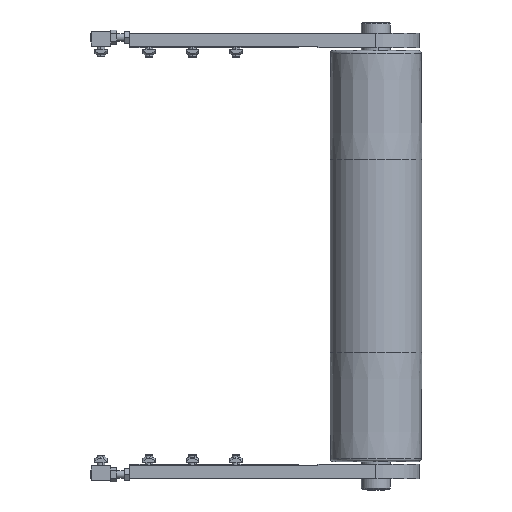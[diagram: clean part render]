
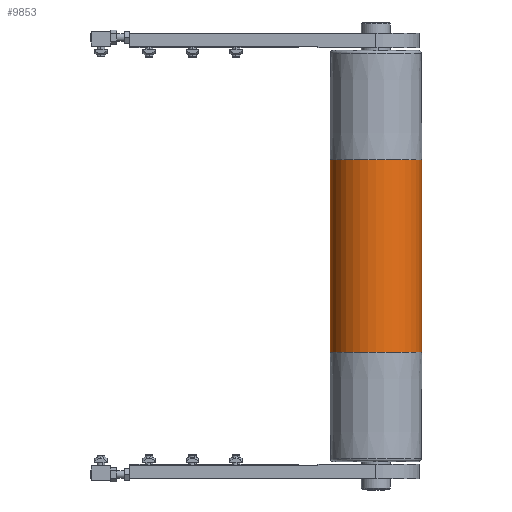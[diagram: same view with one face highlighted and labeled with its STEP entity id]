
A CAD part, front view. The second image highlights one B-rep face of the part: STEP entity #9853.
In plain terms, the highlighted cylindrical face has radius 47.5 mm (diameter 95 mm), a partial arc.
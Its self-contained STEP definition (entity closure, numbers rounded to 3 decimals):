
#971 = LINE ( 'NONE', #972, #13380 ) ;
#972 = CARTESIAN_POINT ( 'NONE',  ( 210., 0., -47.5 ) ) ;
#976 = LINE ( 'NONE', #981, #13385 ) ;
#980 = DIRECTION ( 'NONE',  ( -1., 0., 0. ) ) ;
#981 = CARTESIAN_POINT ( 'NONE',  ( 210., 0., 47.5 ) ) ;
#983 = DIRECTION ( 'NONE',  ( -1., 0., 0. ) ) ;
#1308 = VERTEX_POINT ( 'NONE', #2926 ) ;
#1309 = VERTEX_POINT ( 'NONE', #2927 ) ;
#1313 = VERTEX_POINT ( 'NONE', #2931 ) ;
#1314 = VERTEX_POINT ( 'NONE', #2932 ) ;
#1514 = CIRCLE ( 'NONE', #1517, 47.5 ) ;
#1517 = AXIS2_PLACEMENT_3D ( 'NONE', #3594, #3595, #3596 ) ;
#1683 = CIRCLE ( 'NONE', #1687, 47.5 ) ;
#1687 = AXIS2_PLACEMENT_3D ( 'NONE', #3776, #3777, #3778 ) ;
#2926 = CARTESIAN_POINT ( 'NONE',  ( -100., 0., 47.5 ) ) ;
#2927 = CARTESIAN_POINT ( 'NONE',  ( -100., 0., -47.5 ) ) ;
#2931 = CARTESIAN_POINT ( 'NONE',  ( 100., 0., 47.5 ) ) ;
#2932 = CARTESIAN_POINT ( 'NONE',  ( 100., 0., -47.5 ) ) ;
#3594 = CARTESIAN_POINT ( 'NONE',  ( 100., 0., 0. ) ) ;
#3595 = DIRECTION ( 'NONE',  ( 1., 0., 0. ) ) ;
#3596 = DIRECTION ( 'NONE',  ( 0., 0., -1. ) ) ;
#3776 = CARTESIAN_POINT ( 'NONE',  ( -100., 0., 0. ) ) ;
#3777 = DIRECTION ( 'NONE',  ( 1., 0., 0. ) ) ;
#3778 = DIRECTION ( 'NONE',  ( 0., 0., -1. ) ) ;
#9323 = EDGE_CURVE ( 'NONE', #1314, #1309, #971, .T. ) ;
#9324 = EDGE_CURVE ( 'NONE', #1313, #1308, #976, .T. ) ;
#9717 = EDGE_CURVE ( 'NONE', #1313, #1314, #1514, .T. ) ;
#9778 = EDGE_CURVE ( 'NONE', #1308, #1309, #1683, .T. ) ;
#9853 = ADVANCED_FACE ( 'NONE', ( #10663 ), #10665, .T. ) ;
#10655 = DIRECTION ( 'NONE',  ( -1., 0., 0. ) ) ;
#10663 = FACE_OUTER_BOUND ( 'NONE', #11893, .T. ) ;
#10664 = CARTESIAN_POINT ( 'NONE',  ( 210., 0., 0. ) ) ;
#10665 = CYLINDRICAL_SURFACE ( 'NONE', #12989, 47.5 ) ;
#10666 = DIRECTION ( 'NONE',  ( 0., 0., 1. ) ) ;
#11127 = ORIENTED_EDGE ( 'NONE', *, *, #9323, .F. ) ;
#11128 = ORIENTED_EDGE ( 'NONE', *, *, #9717, .F. ) ;
#11129 = ORIENTED_EDGE ( 'NONE', *, *, #9324, .T. ) ;
#11135 = ORIENTED_EDGE ( 'NONE', *, *, #9778, .T. ) ;
#11893 = EDGE_LOOP ( 'NONE', ( #11127, #11128, #11129, #11135 ) ) ;
#12989 = AXIS2_PLACEMENT_3D ( 'NONE', #10664, #10655, #10666 ) ;
#13380 = VECTOR ( 'NONE', #980, 1000. ) ;
#13385 = VECTOR ( 'NONE', #983, 1000. ) ;
